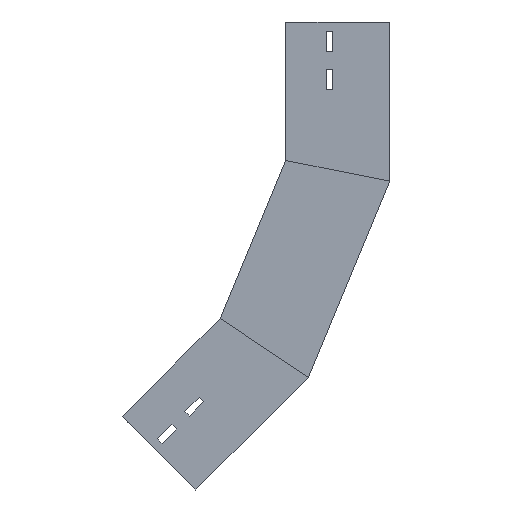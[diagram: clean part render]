
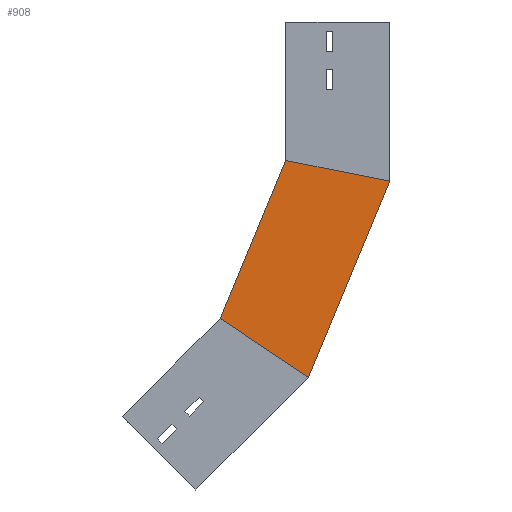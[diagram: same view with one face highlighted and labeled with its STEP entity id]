
A CAD part, left-side view. The second image highlights one B-rep face of the part: STEP entity #908.
In plain terms, the highlighted planar face has unit normal (-1, 0, 0) as drawn and (1, 0, 0) by its records, which use the part's own axes.
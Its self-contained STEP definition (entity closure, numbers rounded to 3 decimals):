
#5 = ORIENTED_EDGE ( 'NONE', *, *, #511, .F. ) ;
#24 = LINE ( 'NONE', #932, #343 ) ;
#63 = VERTEX_POINT ( 'NONE', #924 ) ;
#88 = EDGE_CURVE ( 'NONE', #216, #387, #1054, .T. ) ;
#142 = PLANE ( 'NONE',  #494 ) ;
#216 = VERTEX_POINT ( 'NONE', #791 ) ;
#238 = CARTESIAN_POINT ( 'NONE',  ( 0., 0., -172.1 ) ) ;
#243 = DIRECTION ( 'NONE',  ( 0., 0., 1. ) ) ;
#261 = ORIENTED_EDGE ( 'NONE', *, *, #88, .T. ) ;
#311 = DIRECTION ( 'NONE',  ( 0., -0.981, -0.195 ) ) ;
#343 = VECTOR ( 'NONE', #835, 1000. ) ;
#387 = VERTEX_POINT ( 'NONE', #1329 ) ;
#460 = VECTOR ( 'NONE', #675, 1000. ) ;
#494 = AXIS2_PLACEMENT_3D ( 'NONE', #1218, #1146, #243 ) ;
#501 = EDGE_CURVE ( 'NONE', #63, #216, #1203, .T. ) ;
#511 = EDGE_CURVE ( 'NONE', #63, #639, #1235, .T. ) ;
#517 = ORIENTED_EDGE ( 'NONE', *, *, #1045, .F. ) ;
#639 = VERTEX_POINT ( 'NONE', #922 ) ;
#643 = ORIENTED_EDGE ( 'NONE', *, *, #501, .T. ) ;
#675 = DIRECTION ( 'NONE',  ( 0., 0.383, -0.924 ) ) ;
#702 = EDGE_LOOP ( 'NONE', ( #5, #643, #261, #517 ) ) ;
#718 = FACE_OUTER_BOUND ( 'NONE', #702, .T. ) ;
#755 = CARTESIAN_POINT ( 'NONE',  ( 0., 103.936, -129.048 ) ) ;
#779 = DIRECTION ( 'NONE',  ( 0., 0.383, -0.924 ) ) ;
#791 = CARTESIAN_POINT ( 'NONE',  ( 0., 0., -172.1 ) ) ;
#804 = VECTOR ( 'NONE', #311, 1000. ) ;
#835 = DIRECTION ( 'NONE',  ( 0., -0.831, -0.556 ) ) ;
#908 = ADVANCED_FACE ( 'NONE', ( #718 ), #142, .F. ) ;
#922 = CARTESIAN_POINT ( 'NONE',  ( 0., 183.39, -320.866 ) ) ;
#924 = CARTESIAN_POINT ( 'NONE',  ( 0., 112.5, -149.722 ) ) ;
#932 = CARTESIAN_POINT ( 'NONE',  ( 0., 125.326, -359.663 ) ) ;
#1045 = EDGE_CURVE ( 'NONE', #639, #387, #24, .T. ) ;
#1054 = LINE ( 'NONE', #238, #460 ) ;
#1086 = VECTOR ( 'NONE', #779, 1000. ) ;
#1146 = DIRECTION ( 'NONE',  ( -1., 0., 0. ) ) ;
#1203 = LINE ( 'NONE', #1457, #804 ) ;
#1218 = CARTESIAN_POINT ( 'NONE',  ( 0., 0., -172.1 ) ) ;
#1235 = LINE ( 'NONE', #755, #1086 ) ;
#1329 = CARTESIAN_POINT ( 'NONE',  ( 0., 88.017, -384.592 ) ) ;
#1457 = CARTESIAN_POINT ( 'NONE',  ( 0., 32.93, -165.55 ) ) ;
